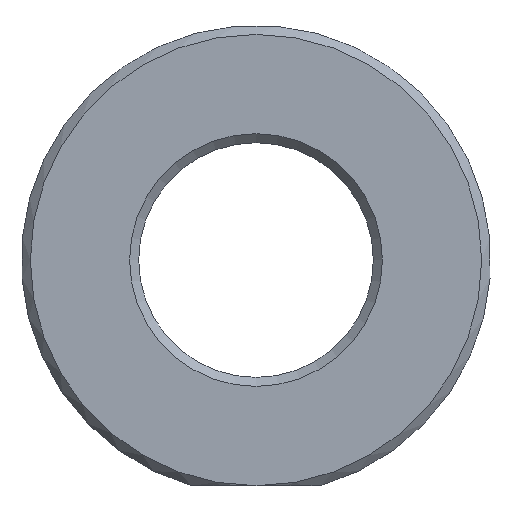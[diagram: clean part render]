
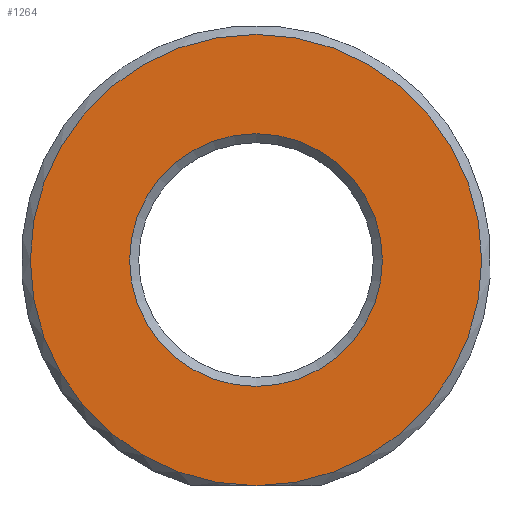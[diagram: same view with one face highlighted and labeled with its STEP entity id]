
A CAD part, left-side view. The second image highlights one B-rep face of the part: STEP entity #1264.
In plain terms, the highlighted planar face has unit normal (-1, 0, 0).
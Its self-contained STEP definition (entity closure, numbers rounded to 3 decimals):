
#1192=CARTESIAN_POINT('',(-12.,0.,14.));
#1193=VERTEX_POINT('',#1192);
#1194=CARTESIAN_POINT('',(-12.,0.0,0.0));
#1195=DIRECTION('',(-1.0,0.0,0.0));
#1196=DIRECTION('',(0.0,0.0,-1.0));
#1197=AXIS2_PLACEMENT_3D('',#1194,#1195,#1196);
#1198=CIRCLE('',#1197,14.);
#1199=EDGE_CURVE('',#1193,#1193,#1198,.T.);
#1245=CARTESIAN_POINT('',(-12.,0.0,0.0));
#1246=DIRECTION('',(-1.0,0.0,0.0));
#1247=DIRECTION('',(0.0,0.0,1.0));
#1248=AXIS2_PLACEMENT_3D('',#1245,#1246,#1247);
#1249=PLANE('',#1248);
#1250=CARTESIAN_POINT('',(-12.,0.0,-25.0));
#1251=VERTEX_POINT('',#1250);
#1252=CARTESIAN_POINT('',(-12.,0.0,0.0));
#1253=DIRECTION('',(1.0,0.0,0.0));
#1254=DIRECTION('',(0.0,-1.0,0.0));
#1255=AXIS2_PLACEMENT_3D('',#1252,#1253,#1254);
#1256=CIRCLE('',#1255,25.0);
#1257=EDGE_CURVE('',#1251,#1251,#1256,.T.);
#1258=ORIENTED_EDGE('',*,*,#1257,.F.);
#1259=EDGE_LOOP('',(#1258));
#1260=FACE_OUTER_BOUND('',#1259,.T.);
#1261=ORIENTED_EDGE('',*,*,#1199,.F.);
#1262=EDGE_LOOP('',(#1261));
#1263=FACE_BOUND('',#1262,.T.);
#1264=ADVANCED_FACE('',(#1260,#1263),#1249,.T.);
